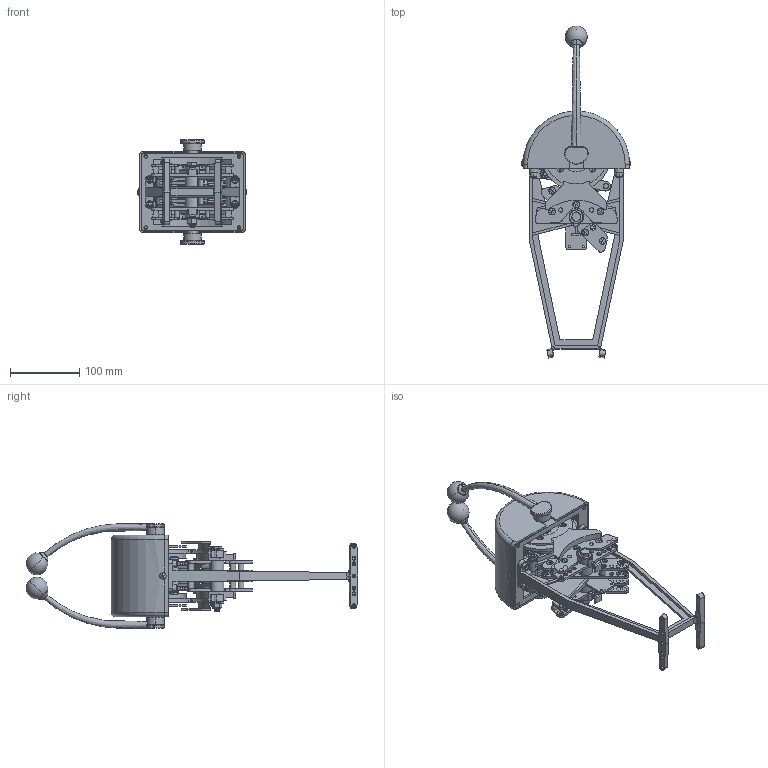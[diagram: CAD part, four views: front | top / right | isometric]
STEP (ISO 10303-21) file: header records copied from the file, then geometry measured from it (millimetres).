
FILE_DESCRIPTION (( 'STEP AP214' ), '1' );
FILE_NAME ('2047-KU.STEP', '2019-11-25T19:55:02', ( '' ), ( '' ), 'SwSTEP 2.0', 'SolidWorks 2019', '' );
FILE_SCHEMA (( 'AUTOMOTIVE_DESIGN' ));
Length unit declared in the file: inch
Products named in the file (1): 2047-KU
Bounding box: 157.97 x 480.51 x 150.81 mm (x, y, z)
Surface area: 340855.1 mm2 (no closed solid volume)
Topology: 0 solids, 97 shells, 1296 faces, 4648 edges, 3365 vertices
Faces by surface type: plane 561, cylinder 513, cone 123, bspline 57, torus 38, sphere 4
Entity records: 108481 total; most frequent: CARTESIAN_POINT 51964, DIRECTION 8573, ORIENTED_EDGE 7307, EDGE_CURVE 4631, VERTEX_POINT 3359, AXIS2_PLACEMENT_3D 3083, VECTOR 2407, LINE 2407
